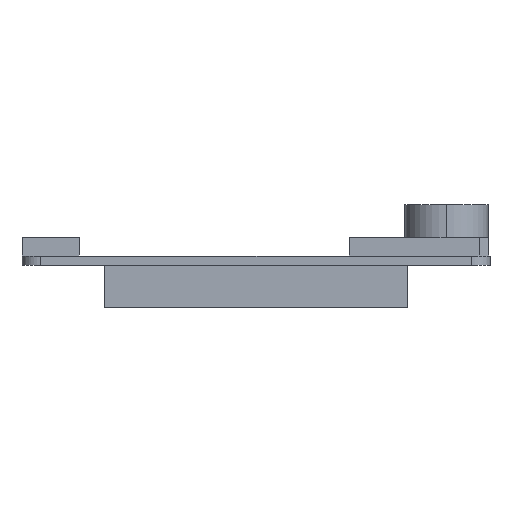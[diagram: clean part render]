
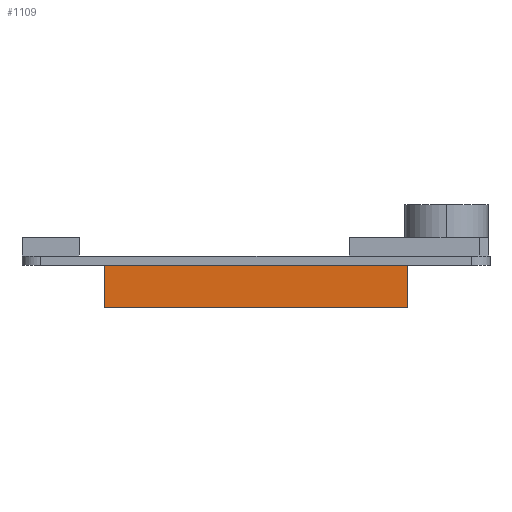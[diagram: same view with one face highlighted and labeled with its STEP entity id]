
A CAD part, left-side view. The second image highlights one B-rep face of the part: STEP entity #1109.
In plain terms, the highlighted planar face has unit normal (-1, 0, 0).
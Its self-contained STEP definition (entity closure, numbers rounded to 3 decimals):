
#255=DIRECTION('',(0.,1.,0.));
#256=VECTOR('',#255,32.42);
#257=CARTESIAN_POINT('',(-15.54,-16.46,-1.));
#258=LINE('',#257,#256);
#335=DIRECTION('',(0.,0.,1.));
#336=VECTOR('',#335,4.5);
#337=CARTESIAN_POINT('',(-15.54,15.96,-5.5));
#338=LINE('',#337,#336);
#339=DIRECTION('',(0.,0.,1.));
#340=VECTOR('',#339,4.5);
#341=CARTESIAN_POINT('',(-15.54,-16.46,-5.5));
#342=LINE('',#341,#340);
#351=DIRECTION('',(0.,-1.,0.));
#352=VECTOR('',#351,32.42);
#353=CARTESIAN_POINT('',(-15.54,15.96,-5.5));
#354=LINE('',#353,#352);
#590=CARTESIAN_POINT('',(-15.54,15.96,-5.5));
#592=VERTEX_POINT('',#590);
#593=CARTESIAN_POINT('',(-15.54,-16.46,-5.5));
#594=VERTEX_POINT('',#593);
#613=CARTESIAN_POINT('',(-15.54,15.96,-1.));
#615=VERTEX_POINT('',#613);
#617=CARTESIAN_POINT('',(-15.54,-16.46,-1.));
#618=VERTEX_POINT('',#617);
#1096=CARTESIAN_POINT('',(-15.54,-16.46,-1.));
#1097=DIRECTION('',(-1.,0.,0.));
#1098=DIRECTION('',(0.,1.,0.));
#1099=AXIS2_PLACEMENT_3D('',#1096,#1097,#1098);
#1100=PLANE('',#1099);
#1101=ORIENTED_EDGE('',*,*,#842,.F.);
#1103=ORIENTED_EDGE('',*,*,#1102,.F.);
#1105=ORIENTED_EDGE('',*,*,#1104,.F.);
#1106=ORIENTED_EDGE('',*,*,#1087,.T.);
#1107=EDGE_LOOP('',(#1101,#1103,#1105,#1106));
#1108=FACE_OUTER_BOUND('',#1107,.F.);
#842=EDGE_CURVE('',#618,#615,#258,.T.);
#1087=EDGE_CURVE('',#592,#615,#338,.T.);
#1102=EDGE_CURVE('',#594,#618,#342,.T.);
#1104=EDGE_CURVE('',#592,#594,#354,.T.);
#1109=ADVANCED_FACE('',(#1108),#1100,.T.);
